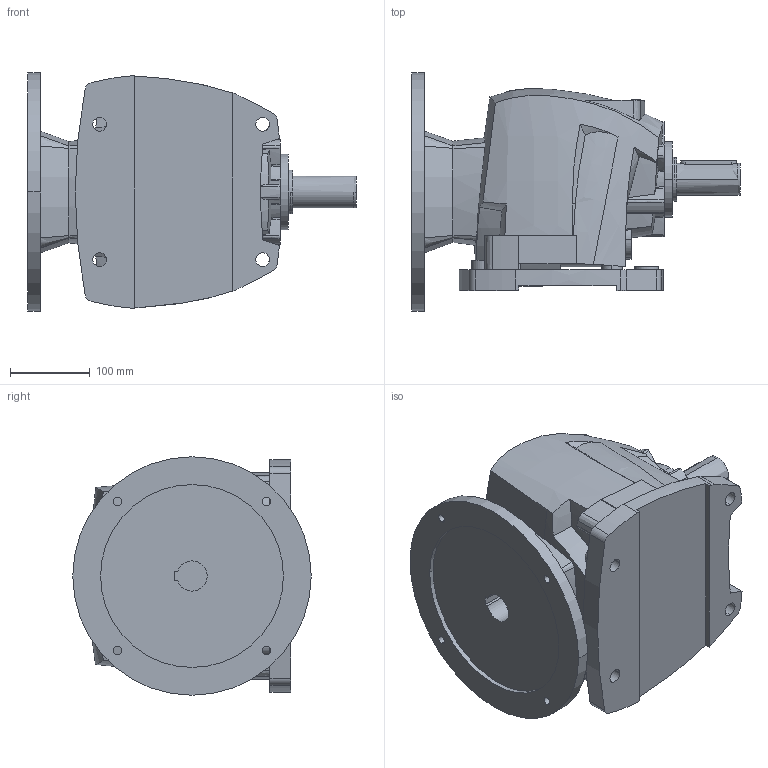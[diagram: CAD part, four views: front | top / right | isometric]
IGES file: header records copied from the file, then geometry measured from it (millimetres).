
Start section:  PTC IGES file: r40_sw_pam132.igs
Global section: file name: r40_sw_pam132.igs; native system: Pro/ENGINEER by Parametric Technology Corporation; preprocessor: 2008230; author: Luca; organization: Unknown; date: 20131128.235025; units: millimetre
Bounding box: 413.5 x 300 x 300 mm (x, y, z)
Volume: 13088643.4 mm3; surface area: 602726.3 mm2
Topology: 1 solids, 5 shells, 463 faces, 1286 edges, 864 vertices
Faces by surface type: bspline 215, revolution 209, extrusion 39
